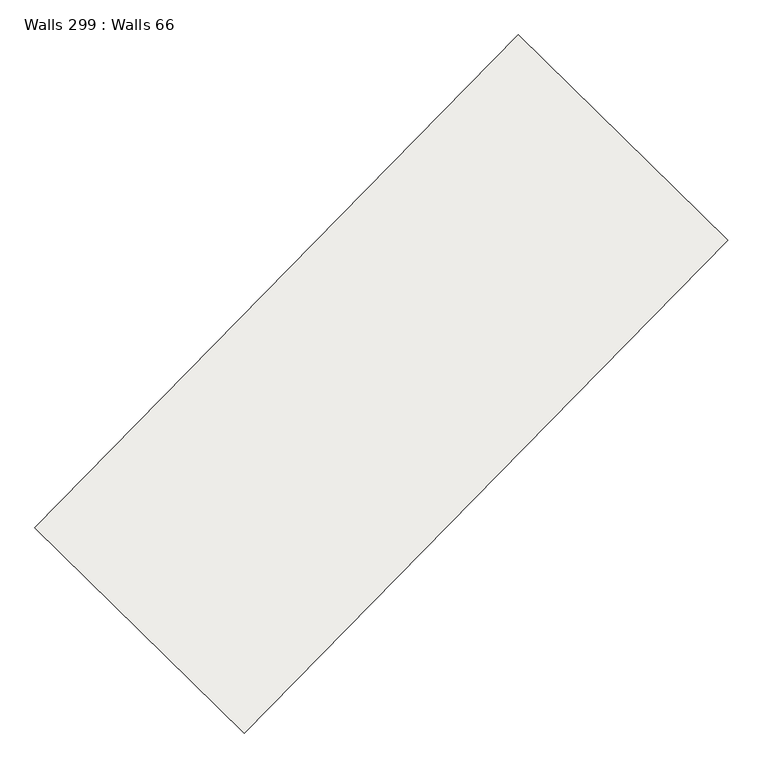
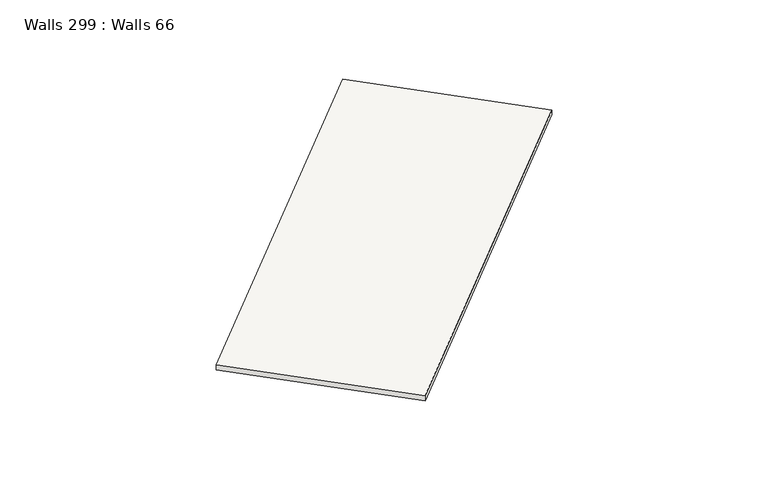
"""IFC4 building model written with IfcOpenShell, lengths in millimetres: slab geometry, Walls 299 : Walls 66."""

from ifc_helpers import new_model, si_unit, frame, origin, place, context, project, spatial, polyline, outline, extrude, source, transform, mapped, element, save


def walls_299_walls_66_1dc4f606(model_context):
    return source(origin(), model_context, "Body", "SweptSolid", [
        extrude(outline(polyline([(-50.0, 0.0), (50.0, 0.0), (-40.0, -8699.9999995), (-140.0, -8699.9999995), (-50.0, 0.0)])), frame((18330.6293596, -140665.6353247, 638310.0), z_axis=(-0.7137361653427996, 0.700414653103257, 0.0), x_axis=(0.0, 0.0, 1.0)), (0.0, 0.0, 1.0), 3699.999995),
    ])


if __name__ == "__main__":
    model = new_model("IFC4")
    model_context = context("Model", 3, world=origin())
    ifc_project = project(units=[si_unit("LENGTHUNIT", "METRE", prefix="MILLI")], contexts=[model_context])
    site = spatial("IfcSite", under=ifc_project)
    building = spatial("IfcBuilding", under=site)
    placement = place(None, origin())
    walls_299_walls_66_shape = walls_299_walls_66_1dc4f606(model_context)
    element("IfcSlab", 1, ObjectType="Walls 299 : Walls 66", at=placement, inside=building, context=model_context, shape_type="MappedRepresentation", body=[
        mapped(walls_299_walls_66_shape, transform((0.0, 0.0, 0.0), x_axis=(1.0, 0.0, 0.0), y_axis=(0.0, 1.0, 0.0), z_axis=(0.0, 0.0, 1.0))),
    ])
    save(model, "model.ifc")
